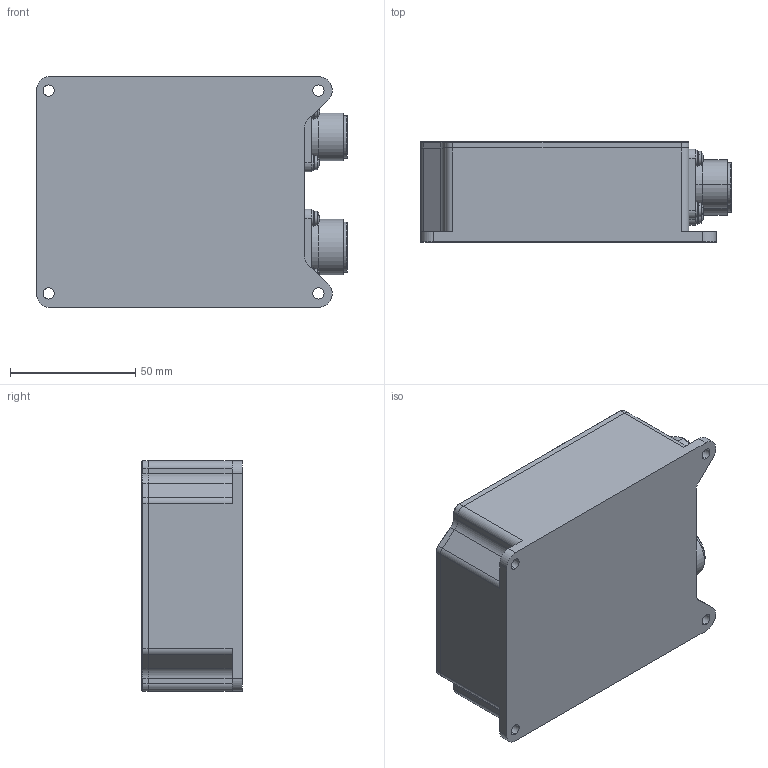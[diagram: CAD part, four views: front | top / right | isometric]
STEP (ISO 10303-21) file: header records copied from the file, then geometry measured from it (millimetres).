
FILE_DESCRIPTION (( 'STEP AP203' ), '1' );
FILE_NAME ('CASE B24-3D.STEP', '2016-08-27T17:47:51', ( 'gregory' ), ( '' ), 'SwSTEP 2.0', 'SolidWorks 2011', '' );
FILE_SCHEMA (( 'CONFIG_CONTROL_DESIGN' ));
Length unit declared in the file: millimetre
Products named in the file (9): CASE B24-3D; GIL-10500-PR26; CONN MS3102 12 SHELL(MALE - MS3102E12S-2P); CONN MS3102 14 SHELL(FEM - MS3102E14S-4S  - 4 PIN); flat head screw_ai(CR-FHMS 0.112-40x0.3125x0.3125-N); pan cross head_ai(CR-PHMS 0.112-40x0.3125x0.3125-N); lock washer spring regular_ai(Regular LW 0.112); flat washer type a selected narrow_ai(Selected Narrow FW 0.125); GIL-10500-PR18(Default)
Assembly tree (37 placements, depth 2):
  CASE B24-3D
    flat head screw_ai(CR-FHMS 0.112-40x0.3125x0.3125-N)  x9
    lock washer spring regular_ai(Regular LW 0.112)  x8
    flat washer type a selected narrow_ai(Selected Narrow FW 0.125)  x8
    pan cross head_ai(CR-PHMS 0.112-40x0.3125x0.3125-N)  x8
    GIL-10500-PR18(Default)
    GIL-10500-PR26
    CONN MS3102 12 SHELL(MALE - MS3102E12S-2P)
    CONN MS3102 14 SHELL(FEM - MS3102E14S-4S  - 4 PIN)
Bounding box: 124.07 x 40 x 92 mm (x, y, z)
Volume: 397824.4 mm3; surface area: 69402.8 mm2
Topology: 37 solids, 45 shells, 1178 faces, 2735 edges, 1709 vertices
Faces by surface type: plane 623, cylinder 346, bspline 91, cone 82, torus 20, sphere 16
Entity records: 29414 total; most frequent: CARTESIAN_POINT 9934, ORIENTED_EDGE 3694, DIRECTION 3525, EDGE_CURVE 1847, AXIS2_PLACEMENT_3D 1209, VERTEX_POINT 1195, VECTOR 1107, LINE 1107
